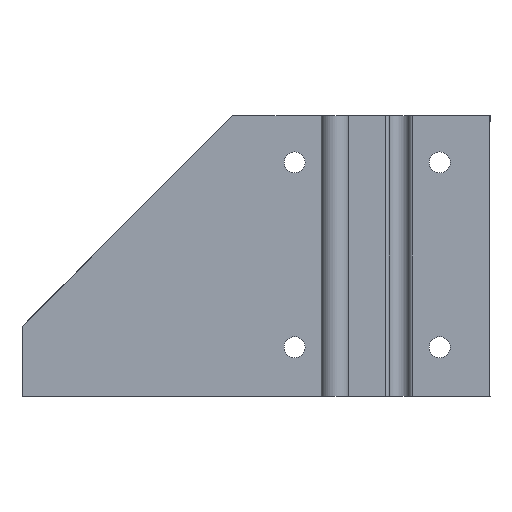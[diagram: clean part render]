
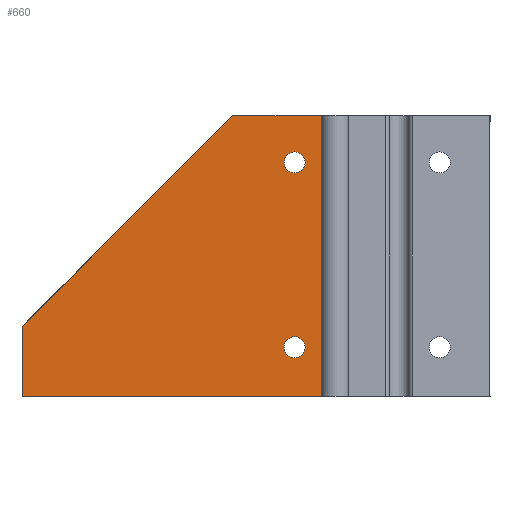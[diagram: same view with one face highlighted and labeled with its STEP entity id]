
A CAD part, front view. The second image highlights one B-rep face of the part: STEP entity #660.
In plain terms, the highlighted planar face has unit normal (0, -1, 0).
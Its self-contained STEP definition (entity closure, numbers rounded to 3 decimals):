
#18=FACE_BOUND('',#121,.T.);
#19=FACE_BOUND('',#122,.T.);
#29=CIRCLE('',#683,9.);
#31=CIRCLE('',#686,9.);
#84=FACE_OUTER_BOUND('',#120,.T.);
#120=EDGE_LOOP('',(#535,#536,#537,#538,#539));
#121=EDGE_LOOP('',(#540));
#122=EDGE_LOOP('',(#541));
#145=LINE('',#939,#214);
#163=LINE('',#1011,#232);
#182=LINE('',#1061,#251);
#185=LINE('',#1067,#254);
#186=LINE('',#1068,#255);
#214=VECTOR('',#747,1.);
#232=VECTOR('',#821,1.);
#251=VECTOR('',#870,1.);
#254=VECTOR('',#879,1.);
#255=VECTOR('',#880,1.);
#281=VERTEX_POINT('',#936);
#282=VERTEX_POINT('',#938);
#288=VERTEX_POINT('',#956);
#290=VERTEX_POINT('',#962);
#307=VERTEX_POINT('',#1008);
#308=VERTEX_POINT('',#1010);
#324=VERTEX_POINT('',#1059);
#344=EDGE_CURVE('',#281,#282,#145,.T.);
#354=EDGE_CURVE('',#288,#288,#29,.T.);
#357=EDGE_CURVE('',#290,#290,#31,.T.);
#379=EDGE_CURVE('',#308,#307,#163,.T.);
#405=EDGE_CURVE('',#281,#324,#182,.T.);
#408=EDGE_CURVE('',#282,#307,#185,.T.);
#409=EDGE_CURVE('',#308,#324,#186,.T.);
#535=ORIENTED_EDGE('',*,*,#408,.F.);
#536=ORIENTED_EDGE('',*,*,#344,.F.);
#537=ORIENTED_EDGE('',*,*,#405,.T.);
#538=ORIENTED_EDGE('',*,*,#409,.F.);
#539=ORIENTED_EDGE('',*,*,#379,.T.);
#540=ORIENTED_EDGE('',*,*,#354,.T.);
#541=ORIENTED_EDGE('',*,*,#357,.T.);
#626=PLANE('',#720);
#660=ADVANCED_FACE('',(#84,#18,#19),#626,.F.);
#683=AXIS2_PLACEMENT_3D('',#958,#768,#769);
#686=AXIS2_PLACEMENT_3D('',#964,#775,#776);
#720=AXIS2_PLACEMENT_3D('',#1066,#877,#878);
#747=DIRECTION('',(0.707,0.,0.707));
#768=DIRECTION('center_axis',(0.,1.,0.));
#769=DIRECTION('ref_axis',(1.,0.,0.));
#775=DIRECTION('center_axis',(0.,1.,0.));
#776=DIRECTION('ref_axis',(1.,0.,0.));
#821=DIRECTION('',(0.,0.,1.));
#870=DIRECTION('',(0.,0.,-1.));
#877=DIRECTION('center_axis',(0.,1.,0.));
#878=DIRECTION('ref_axis',(-1.,0.,0.));
#879=DIRECTION('',(1.,0.,0.));
#880=DIRECTION('',(-1.,0.,0.));
#936=CARTESIAN_POINT('',(-295.,-1.5,60.));
#938=CARTESIAN_POINT('',(-115.,-1.5,240.));
#939=CARTESIAN_POINT('',(-96.058,-1.5,258.942));
#956=CARTESIAN_POINT('',(-71.,-1.5,42.));
#958=CARTESIAN_POINT('Origin',(-62.,-1.5,42.));
#962=CARTESIAN_POINT('',(-71.,-1.5,200.));
#964=CARTESIAN_POINT('Origin',(-62.,-1.5,200.));
#1008=CARTESIAN_POINT('',(-39.079,-1.5,240.));
#1010=CARTESIAN_POINT('',(-39.079,-1.5,0.));
#1011=CARTESIAN_POINT('',(-39.079,-1.5,0.));
#1059=CARTESIAN_POINT('',(-295.,-1.5,0.));
#1061=CARTESIAN_POINT('',(-295.,-1.5,240.));
#1066=CARTESIAN_POINT('Origin',(-39.231,-1.5,240.));
#1067=CARTESIAN_POINT('',(-295.,-1.5,240.));
#1068=CARTESIAN_POINT('',(-295.,-1.5,0.));
